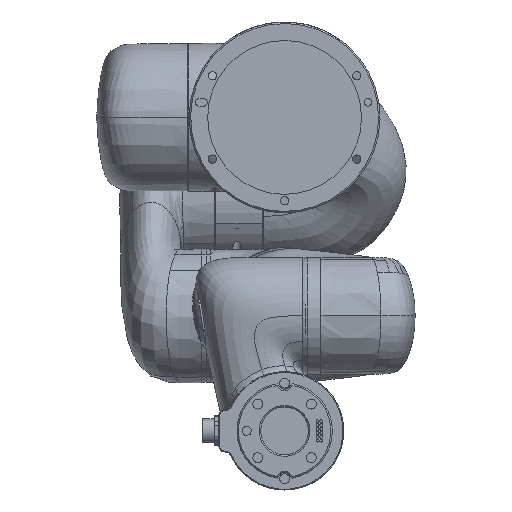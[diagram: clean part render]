
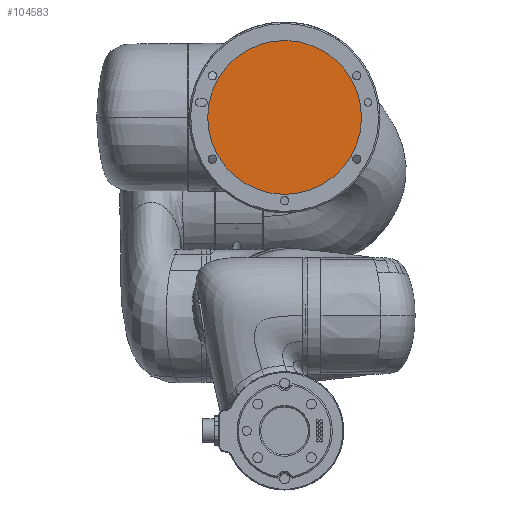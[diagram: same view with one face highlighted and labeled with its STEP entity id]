
A CAD part, front view. The second image highlights one B-rep face of the part: STEP entity #104583.
In plain terms, the highlighted planar face has unit normal (0, -1, 0).
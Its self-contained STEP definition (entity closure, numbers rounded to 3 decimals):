
#5481 = EDGE_LOOP ( 'NONE', ( #8744 ) ) ;
#8744 = ORIENTED_EDGE ( 'NONE', *, *, #126063, .T. ) ;
#9477 = DIRECTION ( 'NONE',  ( 0., -1., 0. ) ) ;
#28262 = PLANE ( 'NONE',  #42034 ) ;
#42034 = AXIS2_PLACEMENT_3D ( 'NONE', #134284, #63424, #146217 ) ;
#54934 = CIRCLE ( 'NONE', #80996, 50.75 ) ;
#63424 = DIRECTION ( 'NONE',  ( 0., -1., 0. ) ) ;
#77918 = CARTESIAN_POINT ( 'NONE',  ( -57.73, 19.158, -54.217 ) ) ;
#80996 = AXIS2_PLACEMENT_3D ( 'NONE', #140827, #9477, #129427 ) ;
#104583 = ADVANCED_FACE ( 'NONE', ( #136843 ), #28262, .T. ) ;
#118457 = VERTEX_POINT ( 'NONE', #77918 ) ;
#126063 = EDGE_CURVE ( 'NONE', #118457, #118457, #54934, .T. ) ;
#129427 = DIRECTION ( 'NONE',  ( -0.656, 0., -0.755 ) ) ;
#134284 = CARTESIAN_POINT ( 'NONE',  ( -24.44, 19.158, -15.911 ) ) ;
#136843 = FACE_OUTER_BOUND ( 'NONE', #5481, .T. ) ;
#140827 = CARTESIAN_POINT ( 'NONE',  ( -24.44, 19.158, -15.911 ) ) ;
#146217 = DIRECTION ( 'NONE',  ( -0.656, 0., -0.755 ) ) ;
